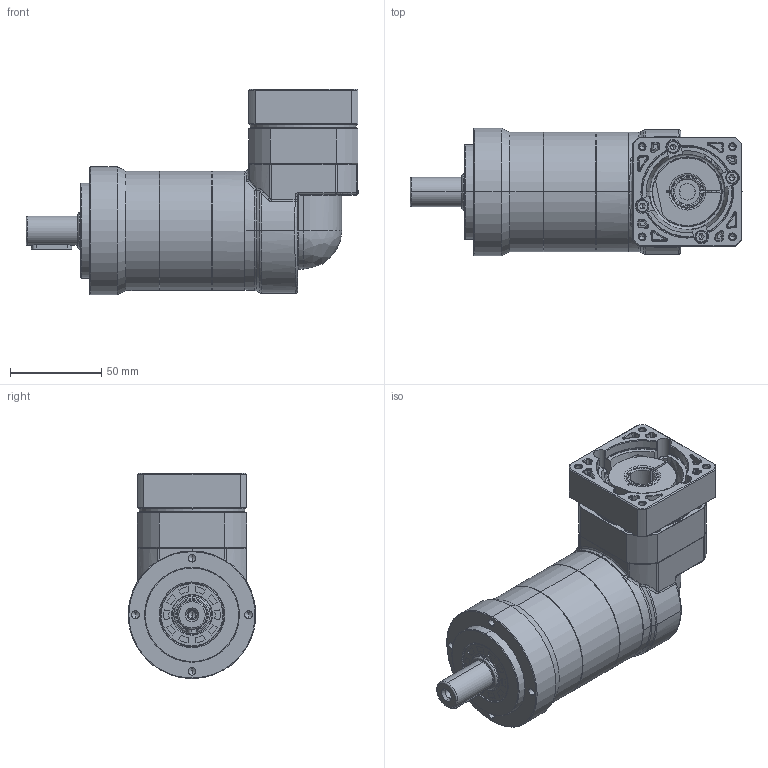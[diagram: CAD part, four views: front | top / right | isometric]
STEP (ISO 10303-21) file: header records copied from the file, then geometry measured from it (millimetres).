
FILE_DESCRIPTION (( 'STEP AP214' ), '1' );
FILE_NAME ('EVL070-L2-S2-P1 14-50-70-M4-33.STEP', '2025-02-14T06:59:13', ( '微软用户' ), ( '微软中国' ), 'SwSTEP 2.0', 'SolidWorks 2021', '' );
FILE_SCHEMA (( 'AUTOMOTIVE_DESIGN' ));
Length unit declared in the file: millimetre
Products named in the file (4): 3.EVT064F眻褒眊极_step_stp_stp.stp; EVL070-L2-S2-P1 14-50-70-M4-33; EVT060D-L2-8-38.1-66.7-M4-33; VRL070D-L2-S2-14-50-70-M4-33
Assembly tree (7 placements, depth 2):
  EVL070-L2-S2-P1 14-50-70-M4-33
    VRL070D-L2-S2-14-50-70-M4-33
    3.EVT064F眻褒眊极_step_stp_stp.stp
    EVT060D-L2-8-38.1-66.7-M4-33  x5
Bounding box: 182 x 70 x 112.5 mm (x, y, z)
Volume: 515445.7 mm3; surface area: 125428.1 mm2
Topology: 18 solids, 28 shells, 1437 faces, 3574 edges, 2206 vertices
Faces by surface type: cylinder 433, plane 384, cone 256, torus 188, bspline 176
Entity records: 57936 total; most frequent: CARTESIAN_POINT 28344, ORIENTED_EDGE 6338, DIRECTION 5787, EDGE_CURVE 3173, AXIS2_PLACEMENT_3D 2368, VERTEX_POINT 1994, EDGE_LOOP 1454, ADVANCED_FACE 1309
